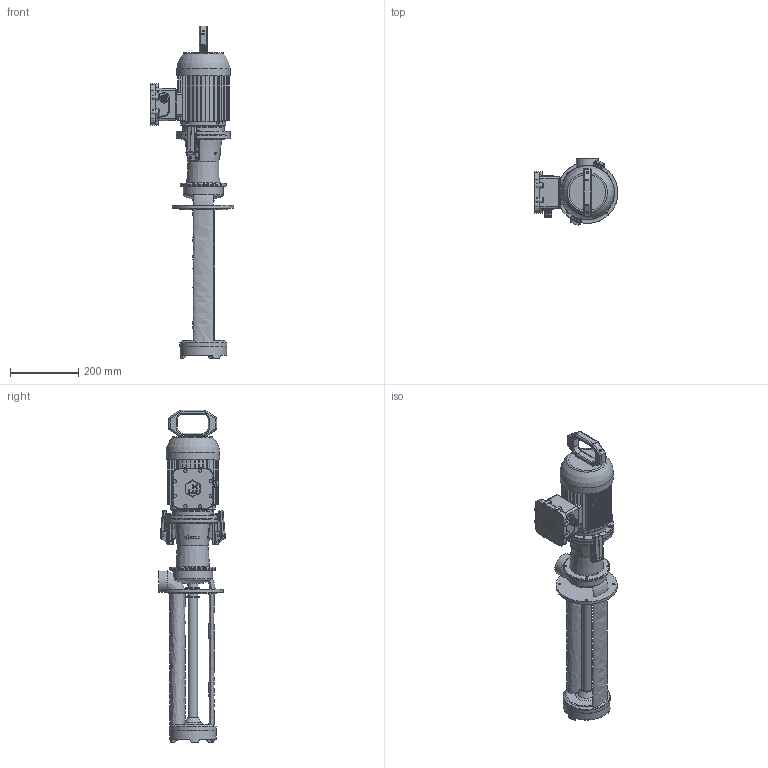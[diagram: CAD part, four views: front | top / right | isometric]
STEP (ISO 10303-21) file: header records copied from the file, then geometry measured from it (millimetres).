
FILE_DESCRIPTION(/* description */ ('Unknown'),/* implementation_level */ '2;1');
FILE_NAME(/* name */ 'EP EX 350-440',/* time_stamp */ '2025-06-02T13:16:43+03:00',/* author */ ('Unknown'),/* organization */ ('Unknown'),/* preprocessor_version */ 'ST-DEVELOPER v16.7',/* originating_system */ 'DEX',/* authorisation */ $);
FILE_SCHEMA (('AUTOMOTIVE_DESIGN {1 0 10303 214 3 1 1}'));
Length unit declared in the file: millimetre
Products named in the file (1): EP EX 350-440
Bounding box: 246.5 x 195.43 x 976.45 mm (x, y, z)
Volume: 8367879.5 mm3; surface area: 788170 mm2
Topology: 1 solids, 22 shells, 2297 faces, 6059 edges, 3780 vertices
Faces by surface type: cylinder 802, plane 730, bspline 404, torus 201, cone 113, sphere 47
Full cylindrical faces by diameter (mm): 3 x12, 3.242 x16, 4 x10, 4.134 x24, 4.9 x4, 5 x90, 5.3 x4, 5.5 x2, 5.7 x8, 6 x8, 7 x8, 8 x3, 9.5 x8, 12 x1, 13 x2, 13.962 x1, 16 x1, 18.348 x1, 18.376 x5, 19 x1, 20 x2, 21.8 x2, 28 x1, 29 x3, 30 x1, 42 x3, 44 x1, 48 x1, 62 x1, 73 x1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
Entity records: 109777 total; most frequent: CARTESIAN_POINT 43445, ORIENTED_EDGE 10866, DIRECTION 9982, EDGE_CURVE 5433, AXIS2_PLACEMENT_3D 4017, VERTEX_POINT 3586, FACE_BOUND 2697, EDGE_LOOP 2689
